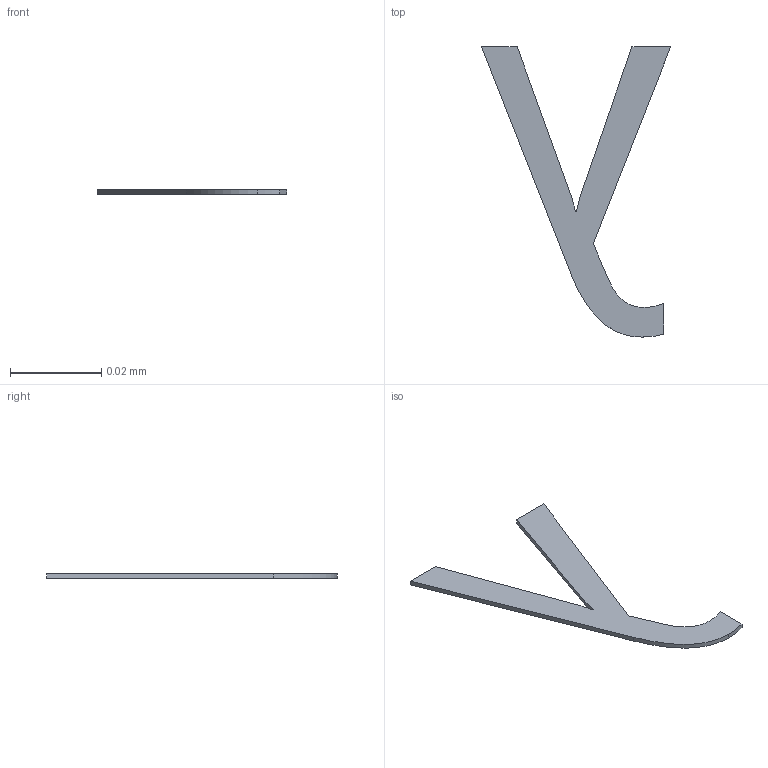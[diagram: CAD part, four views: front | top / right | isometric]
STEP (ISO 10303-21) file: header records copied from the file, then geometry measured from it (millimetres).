
FILE_DESCRIPTION(/* description */ ('STEP AP242 Edition 2','CAx-IF Rec.Pracs.---Representation and Presentation of Product Manufacturing Information (PMI)---4.0---2014-10-13','CAx-IF Rec.Pracs.---3D Tessellated Geometry---0.4---2014-09-14','2;1','CAx-IF Rec.Pracs.---User Defined Attributes---1.5---2016-08-15'),/* implementation_level */ '2;1');
FILE_NAME(/* name */ 'Assembly 1 - SOT-23-6_L2.9-W1.6-P0.95-LS2.8-BL~SOT-23-6_L2.9-W1.6-H1.5-LS2.8-P0.95~nxQB (4)',/* time_stamp */ '2026-04-02T09:55:25Z',/* author */ (''),/* organization */ (''),/* preprocessor_version */ 'ST-DEVELOPER v20',/* originating_system */ 'ONSHAPE BY PTC INC, 1.212',/* authorisation */ ' ');
FILE_SCHEMA (('AP242_MANAGED_MODEL_BASED_3D_ENGINEERING_MIM_LF { 1 0 10303 442 3 1 4 }'));
Length unit declared in the file: metre
Products named in the file (1): SOT-23-6_L2.9-W1.6-P0.95-LS2.8-BL~SOT-23-6_L2.9-W1.6-H1.5-LS2.8-P0.95
~nxQB
Bounding box: 0.04 x 0.06 x 0 mm (x, y, z)
Volume: 0 mm3; surface area: 0 mm2
Topology: 1 solids, 1 shells, 17 faces, 45 edges, 30 vertices
Faces by surface type: plane 12, bspline 5
Entity records: 691 total; most frequent: CARTESIAN_POINT 140, ORIENTED_EDGE 90, DIRECTION 73, EDGE_CURVE 45, LINE 35, VECTOR 35, VERTEX_POINT 30, AXIS2_PLACEMENT_3D 19
